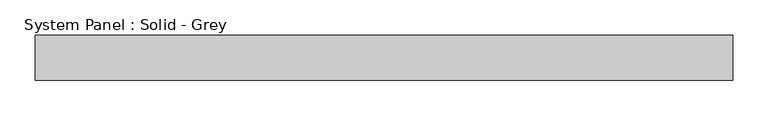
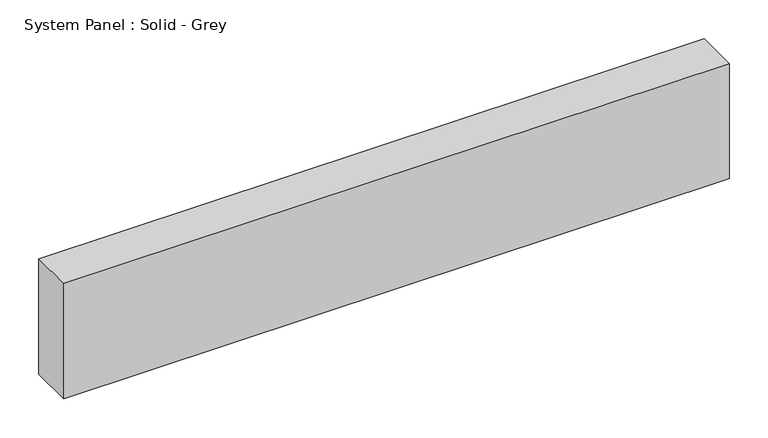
"""IFC4 building model written with IfcOpenShell, lengths in millimetres: plate geometry, System Panel : Solid - Grey."""

import ifcopenshell
import ifcopenshell.guid

model = None  # the IFC model being written
_history = None  # IfcOwnerHistory: only IFC2X3 demands one
_inside = {}  # id of a spatial element -> (the spatial element, [elements in it])
_under = {}  # id of a project, library or spatial element -> (it, [spatial elements below it])
_declared = {}  # id of a project -> (the project, [libraries it declares])
_typed = {}  # id of a type object -> (the type object, [elements of that type])
_made_of = {}  # id of a material, layer set ... -> (it, [elements and type objects made of it])


def new_model(schema):
    """Start an empty IFC model of exactly this schema.

    Asked for "IFC4X3", IfcOpenShell would pick the latest addendum, in which some entities
    have other attributes; the version numbers below select the first issue.
    IFC2X3 requires an IfcOwnerHistory on every rooted entity: one is made here for all.
    """
    global model, _history
    if schema == "IFC4X3":
        model = ifcopenshell.file(schema_version=(4, 3, 0, 0))
    else:
        model = ifcopenshell.file(schema=schema)
    _inside.clear()
    _under.clear()
    _declared.clear()
    _typed.clear()
    _made_of.clear()
    _history = None
    if model.schema == "IFC2X3":
        org = make("IfcOrganization", Name="unknown")
        user = make(
            "IfcPersonAndOrganization",
            ThePerson=make("IfcPerson", FamilyName="unknown"),
            TheOrganization=org,
        )
        app = make(
            "IfcApplication",
            ApplicationDeveloper=org,
            Version="unknown",
            ApplicationFullName="unknown",
            ApplicationIdentifier="unknown",
        )
        _history = make(
            "IfcOwnerHistory",
            OwningUser=user,
            OwningApplication=app,
            ChangeAction="ADDED",
            CreationDate=0,
        )
    return model


def make(cls, **values):
    """One entity of the class cls with the attributes given. An attribute that is None is left unset."""
    return model.create_entity(
        cls, **{name: value for name, value in values.items() if value is not None}
    )


def rooted(cls, **values):
    """An entity with a GlobalId (a new one), such as an element, a storey or a relation."""
    return make(cls, GlobalId=ifcopenshell.guid.new(), OwnerHistory=_history, **values)


def si_unit(unit_type, name, prefix=None):
    """IfcSIUnit, for example si_unit("LENGTHUNIT", "METRE", prefix="MILLI")."""
    return make("IfcSIUnit", UnitType=unit_type, Prefix=prefix, Name=name)


def assignment(units):
    """IfcUnitAssignment: the units of a project."""
    return None if units is None else make("IfcUnitAssignment", Units=units)


def point(xyz):
    """IfcCartesianPoint."""
    return None if xyz is None else make("IfcCartesianPoint", Coordinates=xyz)


def direction(xyz):
    """IfcDirection."""
    return None if xyz is None else make("IfcDirection", DirectionRatios=xyz)


def frame(location, z_axis=None, x_axis=None):
    """IfcAxis2Placement3D, a coordinate frame: its origin and axes. An axis left out is left unset."""
    return make(
        "IfcAxis2Placement3D",
        Location=point(location),
        Axis=direction(z_axis),
        RefDirection=direction(x_axis),
    )


def origin():
    """The frame at (0, 0, 0) with its axes left unset."""
    return frame((0.0, 0.0, 0.0))


def origin_with_axes():
    """The frame at (0, 0, 0) with the z axis (0, 0, 1) and the x axis (1, 0, 0) written out."""
    return frame((0.0, 0.0, 0.0), z_axis=(0.0, 0.0, 1.0), x_axis=(1.0, 0.0, 0.0))


def place(relative_to, where):
    """IfcLocalPlacement: puts the frame where relative to a parent placement (None: the world)."""
    return make(
        "IfcLocalPlacement", PlacementRelTo=relative_to, RelativePlacement=where
    )


def context(
    kind, dimensions, precision=None, world=None, true_north=None, identifier=None
):
    """IfcGeometricRepresentationContext, for example the 3D "Model" context."""
    return make(
        "IfcGeometricRepresentationContext",
        ContextIdentifier=identifier,
        ContextType=kind,
        CoordinateSpaceDimension=dimensions,
        Precision=precision,
        WorldCoordinateSystem=world,
        TrueNorth=true_north,
    )


def project(units=None, contexts=None):
    """IfcProject with its units and contexts."""
    return rooted(
        "IfcProject",
        Name="project",
        RepresentationContexts=contexts,
        UnitsInContext=assignment(units),
    )


def spatial(cls, under=None, at=None, **own):
    """A site, building, storey or space (cls), placed at a placement, below another one or the project."""
    s = rooted(cls, ObjectPlacement=at, **own)
    if under is not None:
        _under.setdefault(under.id(), (under, []))[1].append(s)
    return s


def polyline(points):
    """IfcPolyline through the points."""
    return make("IfcPolyline", Points=[point(p) for p in points])


def outline(outer, holes=None, kind="AREA"):
    """IfcArbitraryClosedProfileDef: a profile drawn as a closed curve; with holes, ...WithVoids."""
    if holes is None:
        return make("IfcArbitraryClosedProfileDef", ProfileType=kind, OuterCurve=outer)
    return make(
        "IfcArbitraryProfileDefWithVoids",
        ProfileType=kind,
        OuterCurve=outer,
        InnerCurves=holes,
    )


def extrude(swept, where, along, depth):
    """IfcExtrudedAreaSolid: the profile swept, set in the frame where, extruded along a direction by depth."""
    return make(
        "IfcExtrudedAreaSolid",
        SweptArea=swept,
        Position=where,
        ExtrudedDirection=direction(along),
        Depth=depth,
    )


def shape(context_of_items, identifier, shape_type, items):
    """IfcShapeRepresentation: the items that make up one representation, for example the "Body"."""
    return make(
        "IfcShapeRepresentation",
        ContextOfItems=context_of_items,
        RepresentationIdentifier=identifier,
        RepresentationType=shape_type,
        Items=items,
    )


def source(mapping_origin, context_of_items, identifier, shape_type, items):
    """IfcRepresentationMap: a shape defined once, which mapped items show again and again."""
    return make(
        "IfcRepresentationMap",
        MappingOrigin=mapping_origin,
        MappedRepresentation=shape(context_of_items, identifier, shape_type, items),
    )


def transform(
    local_origin,
    x_axis=None,
    y_axis=None,
    z_axis=None,
    scale=None,
    scale2=None,
    scale3=None,
    uniform=True,
):
    """IfcCartesianTransformationOperator3D, or its non-uniform kind. x_axis, y_axis, z_axis: its Axis1, 2, 3."""
    if uniform:
        return make(
            "IfcCartesianTransformationOperator3D",
            Axis1=direction(x_axis),
            Axis2=direction(y_axis),
            LocalOrigin=point(local_origin),
            Scale=scale,
            Axis3=direction(z_axis),
        )
    return make(
        "IfcCartesianTransformationOperator3DnonUniform",
        Axis1=direction(x_axis),
        Axis2=direction(y_axis),
        LocalOrigin=point(local_origin),
        Scale=scale,
        Axis3=direction(z_axis),
        Scale2=scale2,
        Scale3=scale3,
    )


def mapped(mapping_source, mapping_target):
    """IfcMappedItem: shows the shape of a source again, moved by a transform."""
    return make(
        "IfcMappedItem", MappingSource=mapping_source, MappingTarget=mapping_target
    )


def made_of(thing, what):
    """Note that an element or type object is made of a material, layer set ...; save() writes the relation."""
    if what is not None:
        _made_of.setdefault(what.id(), (what, []))[1].append(thing)
    return thing


def element(
    cls,
    number,
    at=None,
    inside=None,
    cuts=None,
    type_object=None,
    material=None,
    context=None,
    identifier="Body",
    shape_type=None,
    held_by="IfcProductDefinitionShape",
    body=None,
    shapes=None,
    **own,
):
    """One element of the class cls, such as IfcWall. Its Tag is "e" and its number.

    at: its placement. inside: the storey or other place that contains it. cuts: it is an
    opening in that element (IfcRelVoidsElement). A single representation is given by context,
    identifier, shape_type and body (its items); several are given by shapes. held_by: the class
    of the entity that holds the representations. save() writes the other relations.
    """
    e = rooted(cls, Tag="e%d" % number, ObjectPlacement=at, **own)
    if body is not None:
        shapes = [shape(context, identifier, shape_type, body)]
    if shapes is not None:
        e.Representation = make(held_by, Representations=shapes)
    if inside is not None:
        _inside.setdefault(inside.id(), (inside, []))[1].append(e)
    if cuts is not None:
        rooted(
            "IfcRelVoidsElement", RelatingBuildingElement=cuts, RelatedOpeningElement=e
        )
    if type_object is not None:
        _typed.setdefault(type_object.id(), (type_object, []))[1].append(e)
    return made_of(e, material)


def aggregate(whole, parts):
    """IfcRelAggregates: a whole, such as a stair, and the parts it consists of."""
    return rooted("IfcRelAggregates", RelatingObject=whole, RelatedObjects=parts)


def save(model, path):
    """Write the relations noted so far, then the file.

    IfcRelAggregates (storeys below a building ...), IfcRelContainedInSpatialStructure (elements
    in a storey), IfcRelDefinesByType, IfcRelAssociatesMaterial and IfcRelDeclares: one each for
    every whole, place, type object, material and project.
    """
    for whole, parts in _under.values():
        aggregate(whole, parts)
    for where, things in _inside.values():
        rooted(
            "IfcRelContainedInSpatialStructure",
            RelatedElements=things,
            RelatingStructure=where,
        )
    for kind, things in _typed.values():
        rooted("IfcRelDefinesByType", RelatedObjects=things, RelatingType=kind)
    for what, things in _made_of.values():
        rooted("IfcRelAssociatesMaterial", RelatedObjects=things, RelatingMaterial=what)
    for by, libraries in _declared.values():
        rooted("IfcRelDeclares", RelatingContext=by, RelatedDefinitions=libraries)
    model.write(path)


def system_panel_solid_grey_a226ff41(model_context):
    return source(origin(), model_context, "Body", "SweptSolid", [
        extrude(outline(polyline([(492.5785713, -19.05), (-492.5785713, -19.05), (-492.5785713, 44.45), (492.5785713, 44.45), (492.5785713, -19.05)])), origin_with_axes(), (0.0, 0.0, 1.0), 180.5027241),
    ])


if __name__ == "__main__":
    model = new_model("IFC4")
    model_context = context("Model", 3, world=origin())
    ifc_project = project(units=[si_unit("LENGTHUNIT", "METRE", prefix="MILLI")], contexts=[model_context])
    site = spatial("IfcSite", under=ifc_project)
    building = spatial("IfcBuilding", under=site)
    placement = place(None, origin())
    system_panel_solid_grey_shape = system_panel_solid_grey_a226ff41(model_context)
    element("IfcPlate", 1, ObjectType="System Panel : Solid - Grey", at=placement, inside=building, context=model_context, shape_type="MappedRepresentation", body=[
        mapped(system_panel_solid_grey_shape, transform((0.0, 0.0, 0.0), x_axis=(1.0, 0.0, 0.0), y_axis=(0.0, 1.0, 0.0), z_axis=(0.0, 0.0, 1.0))),
    ])
    save(model, "model.ifc")
